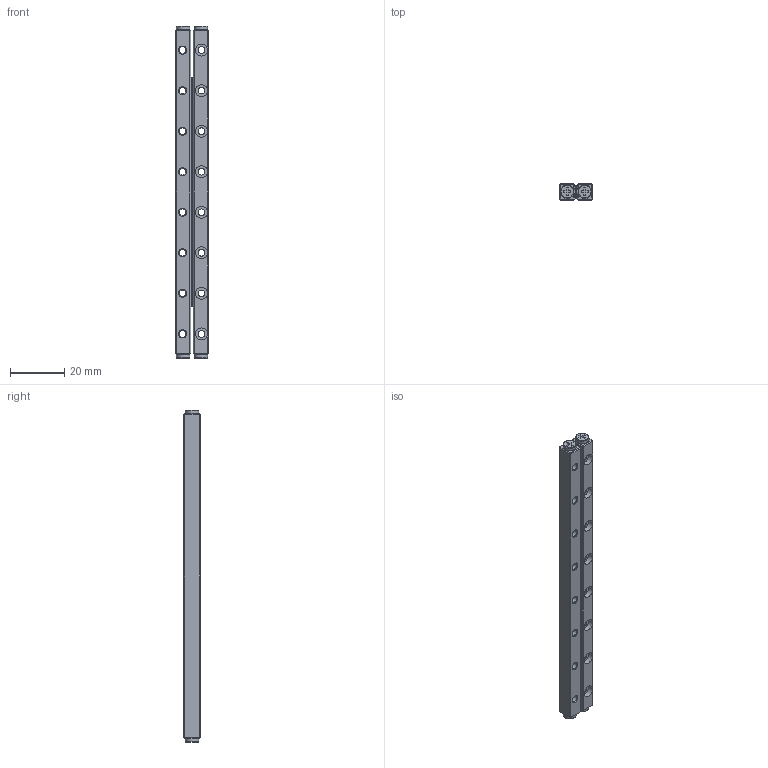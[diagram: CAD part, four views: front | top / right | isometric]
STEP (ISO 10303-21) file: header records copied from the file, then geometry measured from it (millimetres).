
FILE_DESCRIPTION(/* description */ ('Unknown'),/* implementation_level */ '2;1');
FILE_NAME(/* name */ 'VR2-120x21Z',/* time_stamp */ '2025-06-12T09:12:32+08:00',/* author */ ('Unknown'),/* organization */ ('Unknown'),/* preprocessor_version */ 'ST-DEVELOPER v18.102',/* originating_system */ 'Solid Edge',/* authorisation */ 'Unknown');
FILE_SCHEMA (('AUTOMOTIVE_DESIGN {1 0 10303 214 3 1 1}'));
Length unit declared in the file: millimetre
Products named in the file (3): VR2-120x21Z; VR2-120x21Z_rail; VR2-120x21Z_roller
Assembly tree (3 placements, depth 2):
  VR2-120x21Z
    VR2-120x21Z_rail  x2
    VR2-120x21Z_roller
Bounding box: 12 x 6 x 122.8 mm (x, y, z)
Volume: 7154.9 mm3; surface area: 7843.3 mm2
Topology: 3 solids, 3 shells, 475 faces, 1394 edges, 908 vertices
Faces by surface type: plane 306, cylinder 145, cone 16, torus 8
Full cylindrical faces by diameter (mm): 2 x21, 2.459 x16, 4.4 x16, 5 x4
Entity records: 13110 total; most frequent: DIRECTION 2148, CARTESIAN_POINT 2129, ORIENTED_EDGE 2068, EDGE_CURVE 1034, AXIS2_PLACEMENT_3D 731, VERTEX_POINT 712, LINE 686, VECTOR 686
